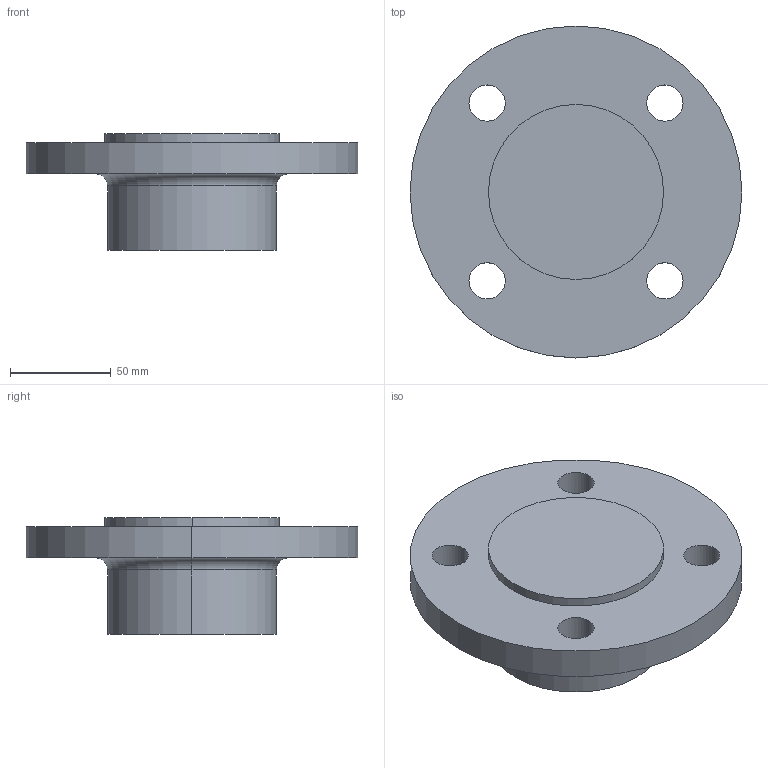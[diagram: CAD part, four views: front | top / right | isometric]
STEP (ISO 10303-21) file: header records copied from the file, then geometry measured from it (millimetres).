
FILE_DESCRIPTION (( 'STEP AP214' ), '1' );
FILE_NAME ('PN40 DN50 Type 21(i) - Type E Face.STEP', '2018-12-30T04:26:24', ( '' ), ( '' ), 'SwSTEP 2.0', 'SolidWorks 2019', '' );
FILE_SCHEMA (( 'AUTOMOTIVE_DESIGN' ));
Length unit declared in the file: millimetre
Products named in the file (1): PN40 DN50 Type 21(i) - Type E Face
Bounding box: 165 x 165 x 58 mm (x, y, z)
Volume: 555093.2 mm3; surface area: 62864.1 mm2
Topology: 1 solids, 1 shells, 20 faces, 46 edges, 30 vertices
Faces by surface type: cylinder 14, plane 4, torus 2
Entity records: 636 total; most frequent: DIRECTION 120, CARTESIAN_POINT 97, ORIENTED_EDGE 92, AXIS2_PLACEMENT_3D 53, EDGE_CURVE 46, CIRCLE 32, VERTEX_POINT 30, EDGE_LOOP 30
